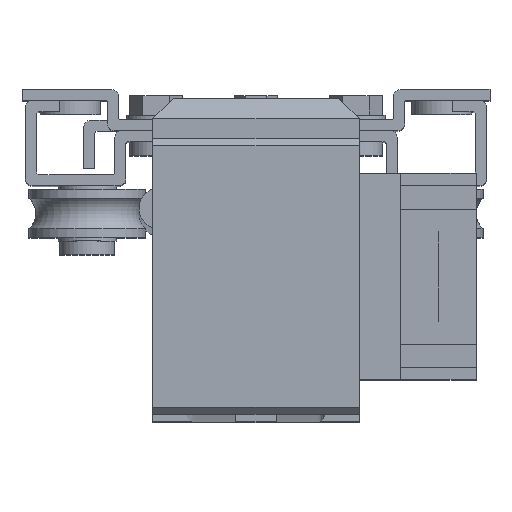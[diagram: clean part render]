
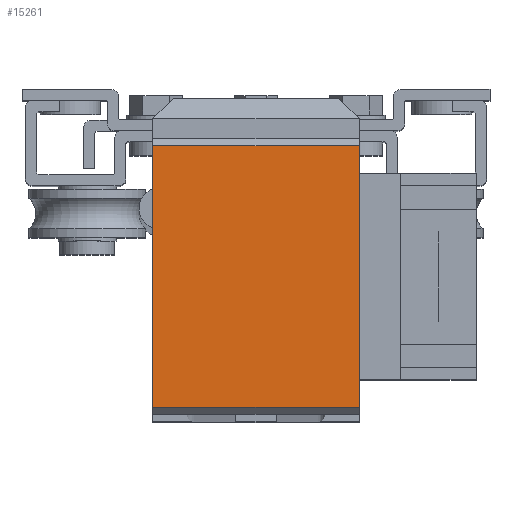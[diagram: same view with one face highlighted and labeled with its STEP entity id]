
A CAD part, top view. The second image highlights one B-rep face of the part: STEP entity #15261.
In plain terms, the highlighted planar face has unit normal (0, 0, 1) as drawn and (-1, 0, 0) by its records, which use the part's own axes.
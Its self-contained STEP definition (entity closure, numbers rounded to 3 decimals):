
#368 = DIRECTION ( 'NONE',  ( 0., 0., -1. ) ) ;
#1085 = CARTESIAN_POINT ( 'NONE',  ( -22., 19., 0. ) ) ;
#1138 = CARTESIAN_POINT ( 'NONE',  ( -22., 19., 30. ) ) ;
#1933 = VECTOR ( 'NONE', #6551, 1000. ) ;
#2832 = FACE_OUTER_BOUND ( 'NONE', #9016, .T. ) ;
#3116 = CARTESIAN_POINT ( 'NONE',  ( -22., -19., 0. ) ) ;
#3934 = ORIENTED_EDGE ( 'NONE', *, *, #11339, .T. ) ;
#5262 = DIRECTION ( 'NONE',  ( 0., 0., -1. ) ) ;
#5627 = CARTESIAN_POINT ( 'NONE',  ( -22., -19., 0. ) ) ;
#6031 = VERTEX_POINT ( 'NONE', #3116 ) ;
#6551 = DIRECTION ( 'NONE',  ( 0., 0., -1. ) ) ;
#7339 = ORIENTED_EDGE ( 'NONE', *, *, #15884, .T. ) ;
#7988 = VECTOR ( 'NONE', #8139, 1000. ) ;
#8031 = CARTESIAN_POINT ( 'NONE',  ( -22., -19., 30. ) ) ;
#8054 = EDGE_CURVE ( 'NONE', #11723, #13141, #13872, .T. ) ;
#8117 = PLANE ( 'NONE',  #16867 ) ;
#8139 = DIRECTION ( 'NONE',  ( 0., -1., 0. ) ) ;
#8219 = LINE ( 'NONE', #5627, #7988 ) ;
#8634 = CARTESIAN_POINT ( 'NONE',  ( -22., -19., 30. ) ) ;
#9016 = EDGE_LOOP ( 'NONE', ( #7339, #15869, #15394, #3934 ) ) ;
#9208 = CARTESIAN_POINT ( 'NONE',  ( -22., -19., 30. ) ) ;
#9324 = CARTESIAN_POINT ( 'NONE',  ( -22., 19., 30. ) ) ;
#9837 = DIRECTION ( 'NONE',  ( 1., 0., 0. ) ) ;
#9892 = VERTEX_POINT ( 'NONE', #1085 ) ;
#10028 = EDGE_CURVE ( 'NONE', #13141, #6031, #11832, .T. ) ;
#11339 = EDGE_CURVE ( 'NONE', #11723, #9892, #15849, .T. ) ;
#11342 = VECTOR ( 'NONE', #5262, 1000. ) ;
#11723 = VERTEX_POINT ( 'NONE', #1138 ) ;
#11832 = LINE ( 'NONE', #8031, #11342 ) ;
#13141 = VERTEX_POINT ( 'NONE', #9208 ) ;
#13872 = LINE ( 'NONE', #16021, #14870 ) ;
#14870 = VECTOR ( 'NONE', #16511, 1000. ) ;
#15261 = ADVANCED_FACE ( 'NONE', ( #2832 ), #8117, .F. ) ;
#15394 = ORIENTED_EDGE ( 'NONE', *, *, #8054, .F. ) ;
#15849 = LINE ( 'NONE', #9324, #1933 ) ;
#15869 = ORIENTED_EDGE ( 'NONE', *, *, #10028, .F. ) ;
#15884 = EDGE_CURVE ( 'NONE', #9892, #6031, #8219, .T. ) ;
#16021 = CARTESIAN_POINT ( 'NONE',  ( -22., -19., 30. ) ) ;
#16511 = DIRECTION ( 'NONE',  ( 0., -1., 0. ) ) ;
#16867 = AXIS2_PLACEMENT_3D ( 'NONE', #8634, #9837, #368 ) ;
